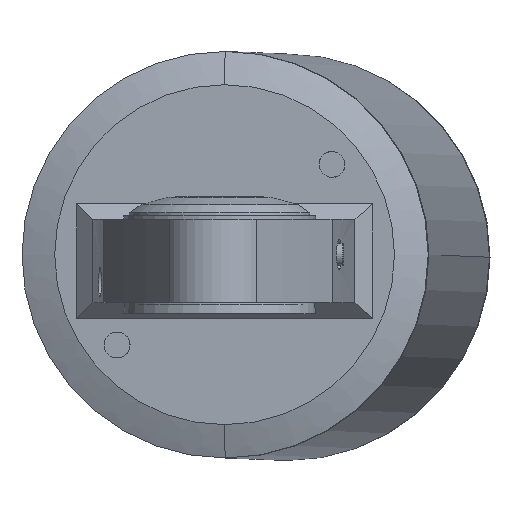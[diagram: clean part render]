
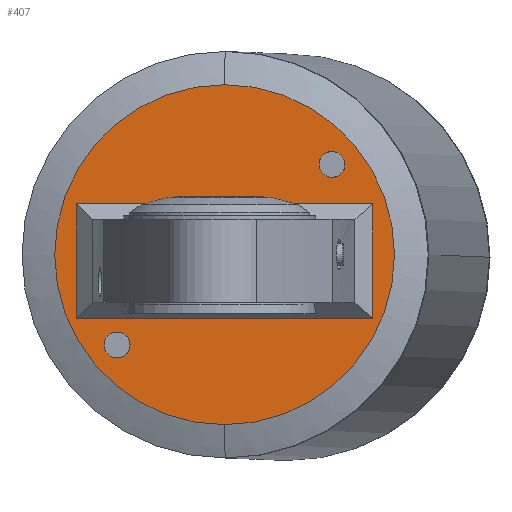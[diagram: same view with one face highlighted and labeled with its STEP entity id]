
A CAD part, top view. The second image highlights one B-rep face of the part: STEP entity #407.
In plain terms, the highlighted planar face has unit normal (-0.042, 0, 0.999).
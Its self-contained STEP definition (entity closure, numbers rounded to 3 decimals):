
#12 = CARTESIAN_POINT ( 'NONE',  ( 384.698, 382.492, 2162.95 ) ) ;
#19 = CARTESIAN_POINT ( 'NONE',  ( 242.611, 339.5, 2157.006 ) ) ;
#78 = EDGE_LOOP ( 'NONE', ( #3241, #3147 ) ) ;
#80 = CIRCLE ( 'NONE', #1103, 7. ) ;
#101 = CIRCLE ( 'NONE', #787, 7. ) ;
#131 = ORIENTED_EDGE ( 'NONE', *, *, #245, .F. ) ;
#156 = CARTESIAN_POINT ( 'NONE',  ( 264.536, 297.648, 2157.923 ) ) ;
#175 = DIRECTION ( 'NONE',  ( 0., -1., 0. ) ) ;
#198 = DIRECTION ( 'NONE',  ( 0.042, 0., -0.999 ) ) ;
#199 = EDGE_LOOP ( 'NONE', ( #3444, #421, #973, #293 ) ) ;
#245 = EDGE_CURVE ( 'NONE', #734, #968, #2529, .T. ) ;
#248 = CARTESIAN_POINT ( 'NONE',  ( 402.798, 339.5, 2163.708 ) ) ;
#265 = CIRCLE ( 'NONE', #2260, 7. ) ;
#293 = ORIENTED_EDGE ( 'NONE', *, *, #2447, .T. ) ;
#340 = EDGE_CURVE ( 'NONE', #459, #1069, #80, .T. ) ;
#396 = FACE_BOUND ( 'NONE', #199, .T. ) ;
#407 = ADVANCED_FACE ( 'NONE', ( #2054, #1533, #396, #1195 ), #1731, .F. ) ;
#415 = DIRECTION ( 'NONE',  ( -0.042, 0., 0.999 ) ) ;
#421 = ORIENTED_EDGE ( 'NONE', *, *, #732, .T. ) ;
#423 = DIRECTION ( 'NONE',  ( -0.999, 0., -0.042 ) ) ;
#434 = DIRECTION ( 'NONE',  ( -0.042, 0., 0.999 ) ) ;
#445 = VECTOR ( 'NONE', #1110, 1000. ) ;
#459 = VERTEX_POINT ( 'NONE', #1317 ) ;
#630 = VECTOR ( 'NONE', #3199, 1000. ) ;
#657 = CARTESIAN_POINT ( 'NONE',  ( 322.705, 247.5, 2160.357 ) ) ;
#680 = DIRECTION ( 'NONE',  ( 0., -1., 0. ) ) ;
#683 = CARTESIAN_POINT ( 'NONE',  ( 380.873, 388.352, 2162.79 ) ) ;
#691 = VERTEX_POINT ( 'NONE', #1221 ) ;
#732 = EDGE_CURVE ( 'NONE', #3154, #691, #2545, .T. ) ;
#734 = VERTEX_POINT ( 'NONE', #657 ) ;
#739 = DIRECTION ( 'NONE',  ( 0., -1., 0. ) ) ;
#787 = AXIS2_PLACEMENT_3D ( 'NONE', #1775, #434, #739 ) ;
#835 = AXIS2_PLACEMENT_3D ( 'NONE', #3486, #198, #1236 ) ;
#968 = VERTEX_POINT ( 'NONE', #2243 ) ;
#973 = ORIENTED_EDGE ( 'NONE', *, *, #3206, .T. ) ;
#1069 = VERTEX_POINT ( 'NONE', #156 ) ;
#1103 = AXIS2_PLACEMENT_3D ( 'NONE', #2860, #2334, #680 ) ;
#1110 = DIRECTION ( 'NONE',  ( 0., 1., 0. ) ) ;
#1118 = CARTESIAN_POINT ( 'NONE',  ( 322.705, 339.5, 2160.357 ) ) ;
#1142 = CARTESIAN_POINT ( 'NONE',  ( 264.536, 290.648, 2157.923 ) ) ;
#1157 = DIRECTION ( 'NONE',  ( 0., -1., 0. ) ) ;
#1190 = CARTESIAN_POINT ( 'NONE',  ( 394.227, 367., 2163.349 ) ) ;
#1195 = FACE_OUTER_BOUND ( 'NONE', #2738, .T. ) ;
#1221 = CARTESIAN_POINT ( 'NONE',  ( 402.798, 367., 2163.708 ) ) ;
#1228 = VECTOR ( 'NONE', #3362, 1000. ) ;
#1236 = DIRECTION ( 'NONE',  ( 0., -1., 0. ) ) ;
#1262 = CARTESIAN_POINT ( 'NONE',  ( 414.624, 305., 2164.202 ) ) ;
#1302 = CARTESIAN_POINT ( 'NONE',  ( 377.048, 394.212, 2162.63 ) ) ;
#1317 = CARTESIAN_POINT ( 'NONE',  ( 264.536, 283.648, 2157.923 ) ) ;
#1454 = AXIS2_PLACEMENT_3D ( 'NONE', #1484, #1786, #2007 ) ;
#1458 = LINE ( 'NONE', #19, #445 ) ;
#1484 = CARTESIAN_POINT ( 'NONE',  ( 414.624, 339.5, 2164.202 ) ) ;
#1533 = FACE_BOUND ( 'NONE', #2115, .T. ) ;
#1539 = AXIS2_PLACEMENT_3D ( 'NONE', #683, #415, #175 ) ;
#1669 = EDGE_CURVE ( 'NONE', #1836, #3154, #1458, .T. ) ;
#1689 = EDGE_CURVE ( 'NONE', #968, #734, #2430, .T. ) ;
#1731 = PLANE ( 'NONE',  #1454 ) ;
#1761 = VERTEX_POINT ( 'NONE', #2907 ) ;
#1763 = EDGE_CURVE ( 'NONE', #2230, #3204, #101, .T. ) ;
#1775 = CARTESIAN_POINT ( 'NONE',  ( 380.873, 388.352, 2162.79 ) ) ;
#1786 = DIRECTION ( 'NONE',  ( 0.042, 0., -0.999 ) ) ;
#1808 = CARTESIAN_POINT ( 'NONE',  ( 242.611, 305., 2157.006 ) ) ;
#1836 = VERTEX_POINT ( 'NONE', #1808 ) ;
#1975 = EDGE_CURVE ( 'NONE', #1069, #459, #265, .T. ) ;
#2007 = DIRECTION ( 'NONE',  ( 0., -1., 0. ) ) ;
#2032 = LINE ( 'NONE', #1262, #2659 ) ;
#2054 = FACE_BOUND ( 'NONE', #78, .T. ) ;
#2115 = EDGE_LOOP ( 'NONE', ( #3189, #2358 ) ) ;
#2230 = VERTEX_POINT ( 'NONE', #1302 ) ;
#2243 = CARTESIAN_POINT ( 'NONE',  ( 322.705, 431.5, 2160.357 ) ) ;
#2260 = AXIS2_PLACEMENT_3D ( 'NONE', #1142, #3326, #3040 ) ;
#2334 = DIRECTION ( 'NONE',  ( -0.042, 0., 0.999 ) ) ;
#2358 = ORIENTED_EDGE ( 'NONE', *, *, #340, .F. ) ;
#2394 = LINE ( 'NONE', #248, #630 ) ;
#2430 = CIRCLE ( 'NONE', #835, 92. ) ;
#2447 = EDGE_CURVE ( 'NONE', #1761, #1836, #2032, .T. ) ;
#2529 = CIRCLE ( 'NONE', #2688, 92. ) ;
#2545 = LINE ( 'NONE', #1190, #1228 ) ;
#2659 = VECTOR ( 'NONE', #423, 1000. ) ;
#2688 = AXIS2_PLACEMENT_3D ( 'NONE', #1118, #2734, #1157 ) ;
#2709 = ORIENTED_EDGE ( 'NONE', *, *, #1689, .F. ) ;
#2734 = DIRECTION ( 'NONE',  ( 0.042, 0., -0.999 ) ) ;
#2738 = EDGE_LOOP ( 'NONE', ( #131, #2709 ) ) ;
#2860 = CARTESIAN_POINT ( 'NONE',  ( 264.536, 290.648, 2157.923 ) ) ;
#2907 = CARTESIAN_POINT ( 'NONE',  ( 402.798, 305., 2163.708 ) ) ;
#2909 = CARTESIAN_POINT ( 'NONE',  ( 242.611, 367., 2157.006 ) ) ;
#3040 = DIRECTION ( 'NONE',  ( 0., -1., 0. ) ) ;
#3067 = CIRCLE ( 'NONE', #1539, 7. ) ;
#3147 = ORIENTED_EDGE ( 'NONE', *, *, #3428, .F. ) ;
#3154 = VERTEX_POINT ( 'NONE', #2909 ) ;
#3189 = ORIENTED_EDGE ( 'NONE', *, *, #1975, .F. ) ;
#3199 = DIRECTION ( 'NONE',  ( 0., -1., 0. ) ) ;
#3204 = VERTEX_POINT ( 'NONE', #12 ) ;
#3206 = EDGE_CURVE ( 'NONE', #691, #1761, #2394, .T. ) ;
#3241 = ORIENTED_EDGE ( 'NONE', *, *, #1763, .F. ) ;
#3326 = DIRECTION ( 'NONE',  ( -0.042, 0., 0.999 ) ) ;
#3362 = DIRECTION ( 'NONE',  ( 0.999, 0., 0.042 ) ) ;
#3428 = EDGE_CURVE ( 'NONE', #3204, #2230, #3067, .T. ) ;
#3444 = ORIENTED_EDGE ( 'NONE', *, *, #1669, .T. ) ;
#3486 = CARTESIAN_POINT ( 'NONE',  ( 322.705, 339.5, 2160.357 ) ) ;
